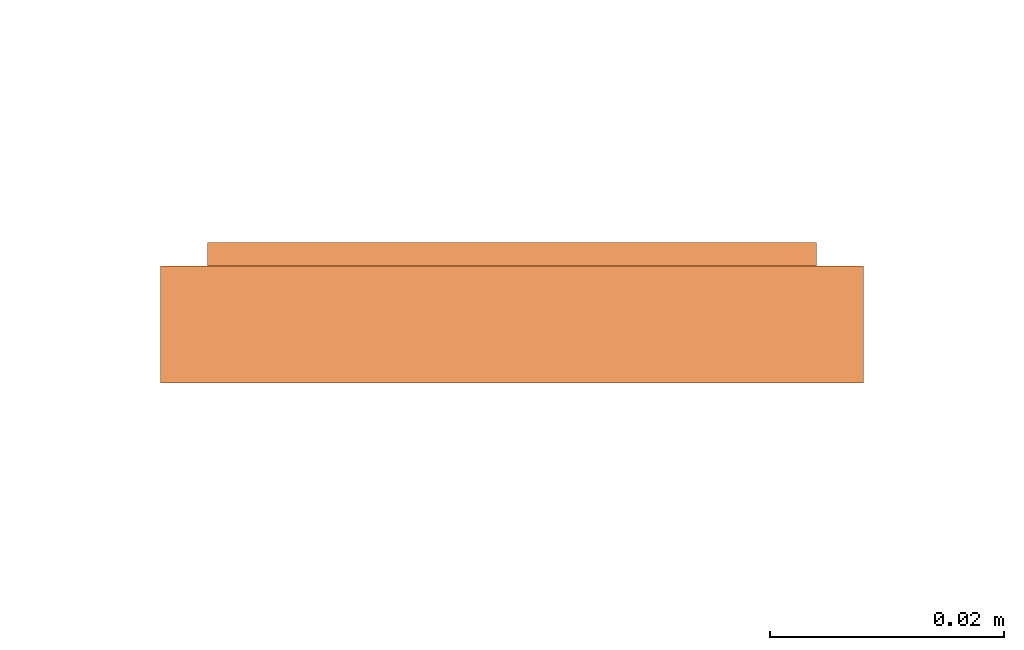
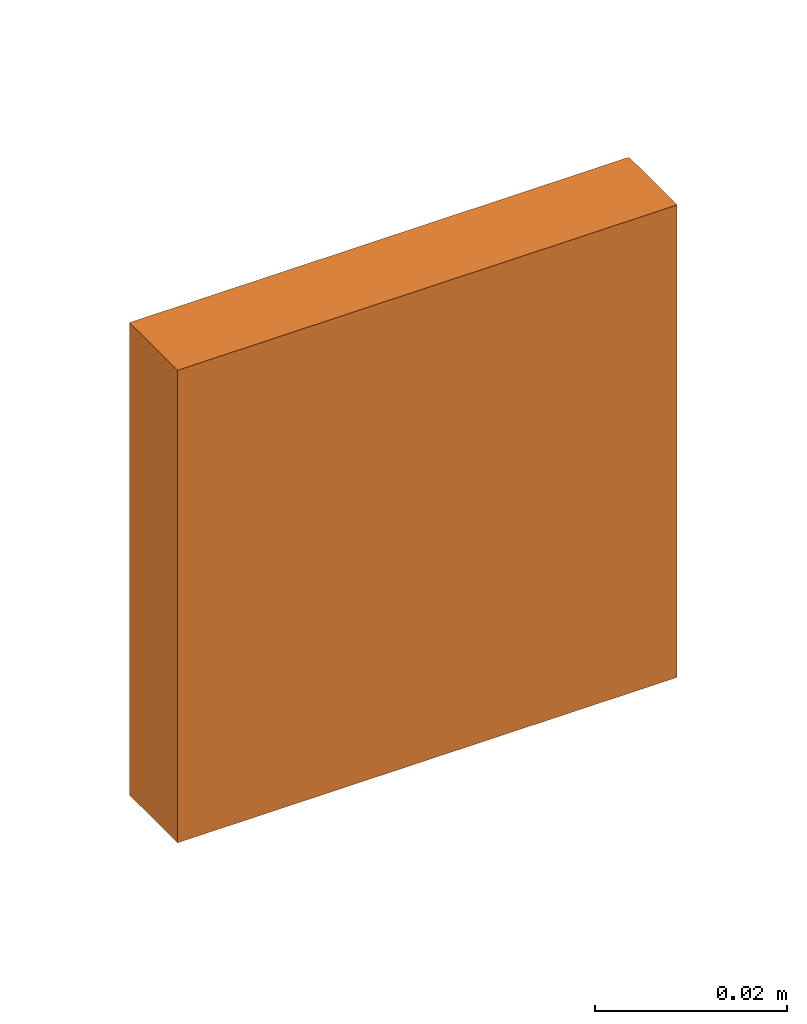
# One storey, part 8 of 9: 1 proxy.
"""IFC2X3 building model written with IfcOpenShell, lengths in millimetres."""

from ifc_helpers import new_model, entity, si_unit, converted_unit, derived_unit, direction, frame, frame_2d, origin, origin_2d_with_axis, place, context, subcontext, project, spatial, rectangle, extrude, source, transform, mapped, material, type_object, element, save


model = new_model("IFC2X3")

# Units and contexts
model_context = context("Model", 3, precision=0.01, world=frame((0.0, 4.29681676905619e-09, 0.0)), true_north=direction((4.01073788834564e-13, 1.0)))
plan_context = context("Plan", 3, precision=0.01, world=frame((0.0, 4.29681676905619e-09, 0.0)), true_north=direction((4.01073788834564e-13, 1.0)))
body_context = subcontext(model_context, "Body", "Model", "MODEL_VIEW")
ifc_project = project(units=[converted_unit("PLANEANGLEUNIT", "DEGREE", entity("IfcPositiveLengthMeasure", 0.0174532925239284), si_unit("PLANEANGLEUNIT", "RADIAN"), dimensions=[0, 0, 0, 0, 0, 0, 0]), si_unit("AREAUNIT", "SQUARE_METRE"), si_unit("LENGTHUNIT", "METRE", prefix="MILLI"), si_unit("MASSUNIT", "GRAM", prefix="KILO"), si_unit("POWERUNIT", "WATT"), si_unit("PRESSUREUNIT", "PASCAL", prefix="KILO"), si_unit("FORCEUNIT", "NEWTON", prefix="KILO"), si_unit("ELECTRICVOLTAGEUNIT", "VOLT"), si_unit("ELECTRICCURRENTUNIT", "AMPERE"), si_unit("THERMODYNAMICTEMPERATUREUNIT", "DEGREE_CELSIUS"), si_unit("TIMEUNIT", "SECOND"), si_unit("VOLUMEUNIT", "CUBIC_METRE"), derived_unit("LINEARVELOCITYUNIT", [(si_unit("LENGTHUNIT", "METRE"), 1), (si_unit("TIMEUNIT", "SECOND"), -1)]), derived_unit("VOLUMETRICFLOWRATEUNIT", [(si_unit("VOLUMEUNIT", "CUBIC_METRE"), 1), (si_unit("TIMEUNIT", "SECOND"), -1)]), derived_unit("THERMALTRANSMITTANCEUNIT", [(si_unit("POWERUNIT", "WATT"), 1), (si_unit("THERMODYNAMICTEMPERATUREUNIT", "KELVIN"), -1), (si_unit("AREAUNIT", "SQUARE_METRE"), -1)]), derived_unit("SOUNDPRESSUREUNIT", [(si_unit("PRESSUREUNIT", "PASCAL"), 1)])], contexts=[model_context, plan_context])

# Site, building, storey
site_placement = place(None, frame((0.0, -4.29681676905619e-09, 0.0), z_axis=(0.0, 0.0, 1.0), x_axis=(1.0, 0.0, 0.0)))
site = spatial("IfcSite", under=ifc_project, at=site_placement, Name="Default", CompositionType="ELEMENT")
building_placement = place(site_placement, frame((0.0, 4.29681676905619e-09, 0.0), z_axis=(0.0, 0.0, 1.0), x_axis=(1.0, 0.0, 0.0)))
building = spatial("IfcBuilding", under=site, at=building_placement, CompositionType="ELEMENT")
storey_placement = place(building_placement, frame((0.0, 0.0, 210900.0), z_axis=(0.0, 0.0, 1.0), x_axis=(1.0, 0.0, 0.0)))
storey = spatial("IfcBuildingStorey", under=building, at=storey_placement, Name="Nivå F", CompositionType="ELEMENT", Elevation=210900.0)

# Proxy
ifc_material = material(Name="Material1")
building_element_proxy_type = type_object("IfcBuildingElementProxyType", Name="Bryter 1-polet påvegg:1066A", PredefinedType="NOTDEFINED", material=ifc_material)
shared_shape = source(origin(), body_context, "Body", "SweptSolid", [
    extrude(rectangle(XDim=2.0, YDim=51.9999999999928, at=frame_2d((-1.0547118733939e-15, 0.0), x_axis=(1.0, 0.0))), frame((0.0, 11.0, -26.0), z_axis=(0.0, 0.0, 1.0), x_axis=(0.0, -1.0, 0.0)), (0.0, 0.0, 1.0), 52.0000000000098),
    extrude(rectangle(XDim=10.0, YDim=60.0, at=origin_2d_with_axis()), frame((0.0, 5.0, -30.0), z_axis=(0.0, 0.0, 1.0), x_axis=(0.0, 1.0, 0.0)), (0.0, 0.0, 1.0), 60.0000000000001),
])
proxy_placement = place(storey_placement, frame((721837.589059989, 443634.86868586, 1000.0), z_axis=(0.0, 0.0, 1.0), x_axis=(1.0, 0.0, 0.0)))
element("IfcBuildingElementProxy", 1, at=proxy_placement, inside=storey, type_object=building_element_proxy_type, material=ifc_material, Name="Bryter 1-polet påvegg:1066A", ObjectType="Bryter 1-polet påvegg:1066A", context=body_context, shape_type="MappedRepresentation", body=[
    mapped(shared_shape, transform((0.0, 0.0, 0.0), scale=1.0)),
])

save(model, "model.ifc")
